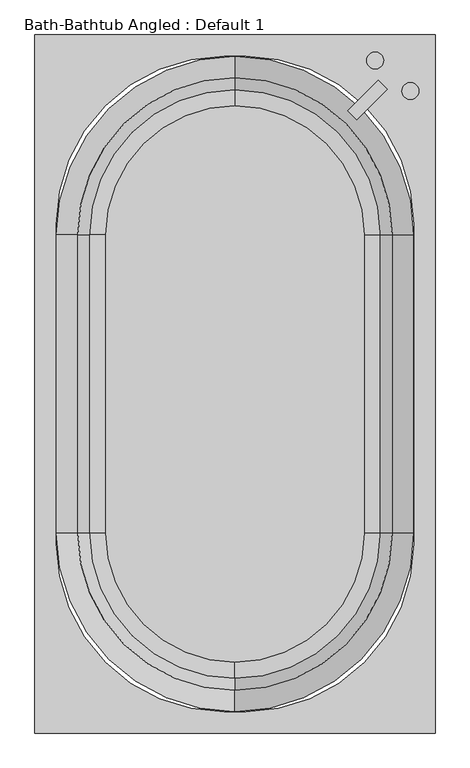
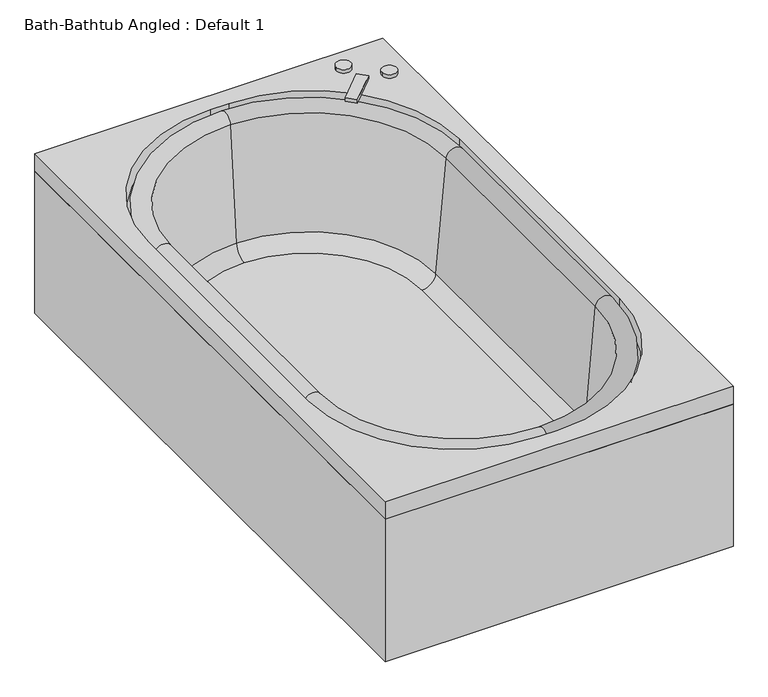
"""IFC4 building model written with IfcOpenShell, lengths in millimetres: flow terminal geometry, Bath-Bathtub Angled : Default 1."""

from ifc_helpers import new_model, si_unit, point, frame, frame_2d, origin, origin_with_axes, place, context, project, spatial, polyline, circle_curve, ellipse_curve, trimmed, segment, composite_curve, outline, extrude, source, transform, mapped, element, save
from ifc_brep_helpers import plane_surface, cylinder_surface, revolved_surface, advanced_brep


def bath_bathtub_angled_default_1_4eb5927c(model_context):
    return source(origin(), model_context, "Body", "SolidModel", [
        advanced_brep(
        [(0.0, 647.7, 0.0), (-295.275, 352.425, 0.0), (-305.5574236, 352.425, 0.0), (0.0, 657.9824236, 0.0), (305.5574236, 352.425, 0.0), (295.275, 352.425, 0.0), (295.275, 352.425, 66.3), (0.0, 647.7, 66.3), (305.5574236, 352.425, 65.9536107), (305.5574236, 352.425, 66.3), (0.0, 657.9824236, 65.9536107), (-305.5574236, 352.425, 65.9536107), (-295.275, 352.425, 66.3), (-305.5574236, 352.425, 66.3), (-305.5574236, -352.425, 81.38125), (0.0, -657.9824236, 81.38125), (305.5574236, -352.425, 81.38125), (305.5574236, 352.425, 81.38125), (0.0, 657.9824236, 81.38125), (-305.5574236, 352.425, 81.38125), (305.5574236, -352.425, 66.3), (0.0, -657.9824236, 66.3), (-305.5574236, -352.425, 66.3), (-305.5574236, -352.425, 80.8774627), (0.0, -657.9824236, 80.8774627), (305.5574236, -352.425, 80.8774627), (305.5574236, 352.425, 80.8774627), (0.0, 657.9824236, 80.8774627), (-305.5574236, 352.425, 80.8774627), (0.0, -736.6, 409.2), (384.175, -352.425, 409.2), (396.875, -352.425, 409.2), (0.0, -749.3, 409.2), (0.0, -710.8045038, 114.3561295), (358.3795038, -352.425, 114.3561295), (0.0, -657.9824236, 65.9536107), (305.5574236, -352.425, 65.9536107), (0.0, -695.9374416, 115.6568289), (343.5124416, -352.425, 115.6568289), (0.0, -724.1561556, 438.1982063), (371.7311556, -352.425, 438.1982063), (-396.875, -352.425, 409.2), (-384.175, -352.425, 409.2), (-358.3795038, -352.425, 114.3561295), (-305.5574236, -352.425, 65.9536107), (-343.5124416, -352.425, 115.6568289), (-371.7311556, -352.425, 438.1982063), (-396.875, 352.425, 409.2), (-384.175, 352.425, 409.2), (-358.3795038, 352.425, 114.3561295), (-343.5124416, 352.425, 115.6568289), (-371.7311556, 352.425, 438.1982063), (0.0, 749.3, 409.2), (0.0, 736.6, 409.2), (0.0, 710.8045038, 114.3561295), (0.0, 695.9374416, 115.6568289), (0.0, 724.1561556, 438.1982063), (396.875, 352.425, 409.2), (384.175, 352.425, 409.2), (358.3795038, 352.425, 114.3561295), (343.5124416, 352.425, 115.6568289), (371.7311556, 352.425, 438.1982063)],
        [
            (0, 1, circle_curve(frame((0.0, 352.425, 0.0), z_axis=(0.0, 0.0, 1.0), x_axis=(1.0, 0.0, 0.0)), 295.275)),
            (1, 2),
            (2, 3, circle_curve(frame((0.0, 352.425, 0.0), z_axis=(0.0, 0.0, -1.0), x_axis=(1.0, 0.0, 0.0)), 305.5574236)),
            (3, 4, circle_curve(frame((0.0, 352.425, 0.0), z_axis=(0.0, 0.0, -1.0), x_axis=(1.0, 0.0, 0.0)), 305.5574236)),
            (4, 5),
            (5, 0, circle_curve(frame((0.0, 352.425, 0.0), z_axis=(0.0, 0.0, 1.0), x_axis=(1.0, 0.0, 0.0)), 295.275)),
            (5, 6),
            (6, 7, circle_curve(frame((0.0, 352.425, 66.3), z_axis=(0.0, 0.0, 1.0), x_axis=(1.0, 0.0, 0.0)), 295.275)),
            (7, 0),
            (4, 8),
            (8, 9),
            (9, 6),
            (3, 10),
            (10, 8, circle_curve(frame((0.0, 352.425, 65.9536107), z_axis=(0.0, 0.0, -1.0), x_axis=(1.0, 0.0, 0.0)), 305.5574236)),
            (2, 11),
            (11, 10, circle_curve(frame((0.0, 352.425, 65.9536107), z_axis=(0.0, 0.0, -1.0), x_axis=(1.0, 0.0, 0.0)), 305.5574236)),
            (1, 12),
            (12, 13),
            (13, 11),
            (7, 12, circle_curve(frame((0.0, 352.425, 66.3), z_axis=(0.0, 0.0, 1.0), x_axis=(1.0, 0.0, 0.0)), 295.275)),
            (14, 15, circle_curve(frame((0.0, -352.425, 81.38125), z_axis=(0.0, 0.0, 1.0), x_axis=(0.0, -1.0, 0.0)), 305.5574236)),
            (15, 16, circle_curve(frame((0.0, -352.425, 81.38125), z_axis=(0.0, 0.0, 1.0), x_axis=(0.0, -1.0, 0.0)), 305.5574236)),
            (16, 17),
            (17, 18, circle_curve(frame((0.0, 352.425, 81.38125), z_axis=(0.0, 0.0, 1.0), x_axis=(0.0, -1.0, 0.0)), 305.5574236)),
            (18, 19, circle_curve(frame((0.0, 352.425, 81.38125), z_axis=(0.0, 0.0, 1.0), x_axis=(0.0, -1.0, 0.0)), 305.5574236)),
            (19, 14),
            (9, 20),
            (20, 21, circle_curve(frame((0.0, -352.425, 66.3), z_axis=(0.0, 0.0, -1.0), x_axis=(1.0, 0.0, 0.0)), 305.5574236)),
            (21, 22, circle_curve(frame((0.0, -352.425, 66.3), z_axis=(0.0, 0.0, -1.0), x_axis=(0.0, -1.0, 0.0)), 305.5574236)),
            (22, 13),
            (14, 23),
            (23, 24, circle_curve(frame((0.0, -352.425, 80.8774627), z_axis=(0.0, 0.0, 1.0), x_axis=(0.0, -1.0, 0.0)), 305.5574236)),
            (24, 15),
            (24, 25, circle_curve(frame((0.0, -352.425, 80.8774627), z_axis=(0.0, 0.0, 1.0), x_axis=(0.0, -1.0, 0.0)), 305.5574236)),
            (25, 16),
            (25, 26),
            (26, 17),
            (26, 27, circle_curve(frame((0.0, 352.425, 80.8774627), z_axis=(0.0, 0.0, 1.0), x_axis=(0.0, -1.0, 0.0)), 305.5574236)),
            (27, 18),
            (27, 28, circle_curve(frame((0.0, 352.425, 80.8774627), z_axis=(0.0, 0.0, 1.0), x_axis=(0.0, -1.0, 0.0)), 305.5574236)),
            (28, 19),
            (28, 23),
            (29, 30, circle_curve(frame((0.0, -352.425, 409.2), z_axis=(0.0, 0.0, 1.0), x_axis=(1.0, 0.0, 0.0)), 384.175)),
            (30, 31),
            (31, 32, circle_curve(frame((0.0, -352.425, 409.2), z_axis=(0.0, 0.0, -1.0), x_axis=(1.0, 0.0, 0.0)), 396.875)),
            (32, 29),
            (29, 33),
            (33, 34, circle_curve(frame((0.0, -352.425, 114.3561295), z_axis=(0.0, 0.0, 1.0), x_axis=(1.0, 0.0, 0.0)), 358.3795038)),
            (34, 30),
            (33, 35, circle_curve(frame((0.0, -657.9824236, 118.9774627), z_axis=(1.0, 0.0, 0.0), x_axis=(0.0, -1.0, 0.0)), 53.023852)),
            (35, 36, circle_curve(frame((0.0, -352.425, 65.9536107), z_axis=(0.0, 0.0, 1.0), x_axis=(1.0, 0.0, 0.0)), 305.5574236)),
            (36, 34, circle_curve(frame((305.5574236, -352.425, 118.9774627), z_axis=(0.0, -1.0, 0.0), x_axis=(1.0, 0.0, 0.0)), 53.023852)),
            (35, 21),
            (20, 36),
            (37, 38, circle_curve(frame((0.0, -352.425, 115.6568289), z_axis=(0.0, 0.0, 1.0), x_axis=(1.0, 0.0, 0.0)), 343.5124416)),
            (38, 25, circle_curve(frame((305.5574236, -352.425, 118.9774627), z_axis=(0.0, 1.0, 0.0), x_axis=(1.0, 0.0, 0.0)), 38.1)),
            (24, 37, circle_curve(frame((0.0, -657.9824236, 118.9774627), z_axis=(-1.0, 0.0, 0.0), x_axis=(0.0, -1.0, 0.0)), 38.1)),
            (37, 39),
            (39, 40, circle_curve(frame((0.0, -352.425, 438.1982063), z_axis=(0.0, 0.0, 1.0), x_axis=(1.0, 0.0, 0.0)), 371.7311556)),
            (40, 38),
            (31, 40, circle_curve(frame((396.875, -352.425, 434.6), z_axis=(0.0, -1.0, 0.0), x_axis=(1.0, 0.0, 0.0)), 25.4)),
            (39, 32, circle_curve(frame((0.0, -749.3, 434.6), z_axis=(1.0, 0.0, 0.0), x_axis=(0.0, -1.0, 0.0)), 25.4)),
            (32, 41, circle_curve(frame((0.0, -352.425, 409.2), z_axis=(0.0, 0.0, -1.0), x_axis=(0.0, -1.0, 0.0)), 396.875)),
            (41, 42),
            (42, 29, circle_curve(frame((0.0, -352.425, 409.2), z_axis=(0.0, 0.0, 1.0), x_axis=(0.0, -1.0, 0.0)), 384.175)),
            (42, 43),
            (43, 33, circle_curve(frame((0.0, -352.425, 114.3561295), z_axis=(0.0, 0.0, 1.0), x_axis=(0.0, -1.0, 0.0)), 358.3795038)),
            (43, 44, circle_curve(frame((-305.5574236, -352.425, 118.9774627), z_axis=(0.0, -1.0, 0.0), x_axis=(-1.0, 0.0, 0.0)), 53.023852)),
            (44, 35, circle_curve(frame((0.0, -352.425, 65.9536107), z_axis=(0.0, 0.0, 1.0), x_axis=(0.0, -1.0, 0.0)), 305.5574236)),
            (44, 22),
            (23, 45, circle_curve(frame((-305.5574236, -352.425, 118.9774627), z_axis=(0.0, 1.0, 0.0), x_axis=(-1.0, 0.0, 0.0)), 38.1)),
            (45, 37, circle_curve(frame((0.0, -352.425, 115.6568289), z_axis=(0.0, 0.0, 1.0), x_axis=(0.0, -1.0, 0.0)), 343.5124416)),
            (45, 46),
            (46, 39, circle_curve(frame((0.0, -352.425, 438.1982063), z_axis=(0.0, 0.0, 1.0), x_axis=(0.0, -1.0, 0.0)), 371.7311556)),
            (46, 41, circle_curve(frame((-396.875, -352.425, 434.6), z_axis=(0.0, -1.0, 0.0), x_axis=(-1.0, 0.0, 0.0)), 25.4)),
            (41, 47),
            (47, 48),
            (48, 42),
            (48, 49),
            (49, 43),
            (49, 11, circle_curve(frame((-305.5574236, 352.425, 118.9774627), z_axis=(0.0, -1.0, 0.0), x_axis=(-1.0, 0.0, 0.0)), 53.023852)),
            (11, 44),
            (28, 50, circle_curve(frame((-305.5574236, 352.425, 118.9774627), z_axis=(0.0, 1.0, 0.0), x_axis=(-1.0, 0.0, 0.0)), 38.1)),
            (50, 45),
            (50, 51),
            (51, 46),
            (51, 47, circle_curve(frame((-396.875, 352.425, 434.6), z_axis=(0.0, -1.0, 0.0), x_axis=(-1.0, 0.0, 0.0)), 25.4)),
            (47, 52, circle_curve(frame((0.0, 352.425, 409.2), z_axis=(0.0, 0.0, -1.0), x_axis=(-1.0, 0.0, 0.0)), 396.875)),
            (52, 53),
            (53, 48, circle_curve(frame((0.0, 352.425, 409.2), z_axis=(0.0, 0.0, 1.0), x_axis=(-1.0, 0.0, 0.0)), 384.175)),
            (53, 54),
            (54, 49, circle_curve(frame((0.0, 352.425, 114.3561295), z_axis=(0.0, 0.0, 1.0), x_axis=(-1.0, 0.0, 0.0)), 358.3795038)),
            (54, 10, circle_curve(frame((0.0, 657.9824236, 118.9774627), z_axis=(-1.0, 0.0, 0.0), x_axis=(0.0, 1.0, 0.0)), 53.023852)),
            (27, 55, circle_curve(frame((0.0, 657.9824236, 118.9774627), z_axis=(1.0, 0.0, 0.0), x_axis=(0.0, 1.0, 0.0)), 38.1)),
            (55, 50, circle_curve(frame((0.0, 352.425, 115.6568289), z_axis=(0.0, 0.0, 1.0), x_axis=(-1.0, 0.0, 0.0)), 343.5124416)),
            (55, 56),
            (56, 51, circle_curve(frame((0.0, 352.425, 438.1982063), z_axis=(0.0, 0.0, 1.0), x_axis=(-1.0, 0.0, 0.0)), 371.7311556)),
            (56, 52, circle_curve(frame((0.0, 749.3, 434.6), z_axis=(-1.0, 0.0, 0.0), x_axis=(0.0, 1.0, 0.0)), 25.4)),
            (52, 57, circle_curve(frame((0.0, 352.425, 409.2), z_axis=(0.0, 0.0, -1.0), x_axis=(0.0, 1.0, 0.0)), 396.875)),
            (57, 58),
            (58, 53, circle_curve(frame((0.0, 352.425, 409.2), z_axis=(0.0, 0.0, 1.0), x_axis=(0.0, 1.0, 0.0)), 384.175)),
            (58, 59),
            (59, 54, circle_curve(frame((0.0, 352.425, 114.3561295), z_axis=(0.0, 0.0, 1.0), x_axis=(0.0, 1.0, 0.0)), 358.3795038)),
            (59, 8, circle_curve(frame((305.5574236, 352.425, 118.9774627), z_axis=(0.0, 1.0, 0.0), x_axis=(1.0, 0.0, 0.0)), 53.023852)),
            (26, 60, circle_curve(frame((305.5574236, 352.425, 118.9774627), z_axis=(0.0, -1.0, 0.0), x_axis=(1.0, 0.0, 0.0)), 38.1)),
            (60, 55, circle_curve(frame((0.0, 352.425, 115.6568289), z_axis=(0.0, 0.0, 1.0), x_axis=(0.0, 1.0, 0.0)), 343.5124416)),
            (60, 61),
            (61, 56, circle_curve(frame((0.0, 352.425, 438.1982063), z_axis=(0.0, 0.0, 1.0), x_axis=(0.0, 1.0, 0.0)), 371.7311556)),
            (61, 57, circle_curve(frame((396.875, 352.425, 434.6), z_axis=(0.0, 1.0, 0.0), x_axis=(1.0, 0.0, 0.0)), 25.4)),
            (30, 58),
            (57, 31),
            (34, 59),
            (36, 8),
            (38, 60),
            (40, 61),
        ],
        [
            plane_surface(frame((295.275, 352.425, 0.0), z_axis=(0.0, 0.0, -1.0), x_axis=(0.0, 1.0, 0.0))),
            revolved_surface(polyline([(295.275, 352.425, 0.0), (295.275, 352.425, 66.3)]), (0.0, 352.425, 0.0), (0.0, 0.0, -1.0)),
            plane_surface(frame((295.275, 352.425, 66.3), z_axis=(0.0, -1.0, 0.0), x_axis=(0.0, 0.0, -1.0))),
            cylinder_surface(frame((0.0, 352.425, 0.0), z_axis=(0.0, 0.0, 1.0), x_axis=(1.0, 0.0, 0.0)), 305.5574236),
            plane_surface(frame((-305.5574236, 352.425, 66.3), z_axis=(0.0, -1.0, 0.0), x_axis=(0.0, 0.0, -1.0))),
            plane_surface(frame((0.0, -657.9824236, 81.38125), z_axis=(0.0, 0.0, 1.0), x_axis=(1.0, 0.0, 0.0))),
            plane_surface(frame((0.0, -657.9824236, 66.3), z_axis=(0.0, 0.0, -1.0), x_axis=(-1.0, 0.0, 0.0))),
            cylinder_surface(frame((0.0, -352.425, 66.3), z_axis=(0.0, 0.0, 1.0), x_axis=(0.0, -1.0, 0.0)), 305.5574236),
            plane_surface(frame((305.5574236, -352.425, 81.38125), z_axis=(1.0, 0.0, 0.0), x_axis=(0.0, 0.0, -1.0))),
            cylinder_surface(frame((0.0, 352.425, 66.3), z_axis=(0.0, 0.0, 1.0), x_axis=(0.0, -1.0, 0.0)), 305.5574236),
            plane_surface(frame((-305.5574236, 352.425, 81.38125), z_axis=(-1.0, 0.0, 0.0), x_axis=(0.0, 0.0, -1.0))),
            plane_surface(frame((0.0, -352.425, 409.2), z_axis=(0.0, 0.0, -1.0), x_axis=(1.0, 0.0, 0.0))),
            revolved_surface(polyline([(384.175, -352.425, 409.2), (358.3795038, -352.425, 114.3561295)]), (0.0, -352.425, 434.6), (0.0, 0.0, -1.0)),
            revolved_surface(trimmed(ellipse_curve(frame((305.5574236, -352.425, 118.9774627), z_axis=(0.0, 1.0, 0.0), x_axis=(1.0, 0.0, 0.0)), 53.023852, 53.023852), [point((358.3795038, -352.425, 114.3561295))], [point((305.5574236, -352.425, 65.9536107))], True, "CARTESIAN"), (0.0, -352.425, 434.6), (0.0, 0.0, -1.0)),
            revolved_surface(polyline([(305.5574236, -352.425, 65.95361070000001), (305.5574236, -352.425, 66.30000000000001)]), (0.0, -352.425, 434.6), (0.0, 0.0, -1.0)),
            revolved_surface(trimmed(ellipse_curve(frame((305.5574236, -352.425, 118.9774627), z_axis=(0.0, -1.0, 0.0), x_axis=(1.0, 0.0, 0.0)), 38.1, 38.1), [point((305.5574236, -352.425, 80.8774627))], [point((343.5124416, -352.425, 115.6568289))], True, "CARTESIAN"), (0.0, -352.425, 434.6), (0.0, 0.0, -1.0)),
            revolved_surface(polyline([(343.5124416, -352.425, 115.6568289), (371.7311556, -352.425, 438.1982063)]), (0.0, -352.425, 434.6), (0.0, 0.0, -1.0)),
            revolved_surface(trimmed(ellipse_curve(frame((396.875, -352.425, 434.6), z_axis=(0.0, 1.0, 0.0), x_axis=(1.0, 0.0, 0.0)), 25.4, 25.4), [point((371.7311556, -352.425, 438.1982063))], [point((396.875, -352.425, 409.2))], True, "CARTESIAN"), (0.0, -352.425, 434.6), (0.0, 0.0, -1.0)),
            plane_surface(frame((0.0, -352.425, 409.2), z_axis=(0.0, 0.0, -1.0), x_axis=(0.0, -1.0, 0.0))),
            revolved_surface(polyline([(0.0, -736.6, 409.2), (0.0, -710.8045038, 114.3561295)]), (0.0, -352.425, 434.6), (0.0, 0.0, -1.0)),
            revolved_surface(trimmed(ellipse_curve(frame((0.0, -657.9824236, 118.9774627), z_axis=(1.0, 0.0, 0.0), x_axis=(0.0, -1.0, 0.0)), 53.023852, 53.023852), [point((0.0, -710.8045038, 114.3561295))], [point((0.0, -657.9824236, 65.9536107))], True, "CARTESIAN"), (0.0, -352.425, 434.6), (0.0, 0.0, -1.0)),
            revolved_surface(polyline([(0.0, -657.9824236, 65.95361070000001), (0.0, -657.9824236, 66.30000000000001)]), (0.0, -352.425, 434.6), (0.0, 0.0, -1.0)),
            revolved_surface(trimmed(ellipse_curve(frame((0.0, -657.9824236, 118.9774627), z_axis=(-1.0, 0.0, 0.0), x_axis=(0.0, -1.0, 0.0)), 38.1, 38.1), [point((0.0, -657.9824236, 80.8774627))], [point((0.0, -695.9374416, 115.6568289))], True, "CARTESIAN"), (0.0, -352.425, 434.6), (0.0, 0.0, -1.0)),
            revolved_surface(polyline([(0.0, -695.9374416, 115.6568289), (0.0, -724.1561556, 438.1982063)]), (0.0, -352.425, 434.6), (0.0, 0.0, -1.0)),
            revolved_surface(trimmed(ellipse_curve(frame((0.0, -749.3, 434.6), z_axis=(1.0, 0.0, 0.0), x_axis=(0.0, -1.0, 0.0)), 25.4, 25.4), [point((0.0, -724.1561556, 438.1982063))], [point((0.0, -749.3, 409.2))], True, "CARTESIAN"), (0.0, -352.425, 434.6), (0.0, 0.0, -1.0)),
            plane_surface(frame((-396.875, -352.425, 409.2), z_axis=(0.0, 0.0, -1.0), x_axis=(0.0, 1.0, 0.0))),
            plane_surface(frame((-384.175, -352.425, 409.2), z_axis=(-0.9961946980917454, 0.0, -0.08715574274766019), x_axis=(0.0, 1.0, 0.0))),
            cylinder_surface(frame((-305.5574236, -352.425, 118.9774627), z_axis=(0.0, -1.0, 0.0), x_axis=(-1.0, 0.0, 0.0)), 53.023852),
            plane_surface(frame((-305.5574236, -352.425, 65.9536107), z_axis=(1.0, 0.0, 0.0), x_axis=(0.0, 1.0, 0.0))),
            revolved_surface(polyline([(-343.6574236, 352.425, 118.9774627), (-343.6574236, -352.425, 118.9774627)]), (-305.5574236, -352.425, 118.9774627), (0.0, 1.0, 0.0)),
            plane_surface(frame((-343.5124416, -352.425, 115.6568289), z_axis=(0.9961946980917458, 0.0, 0.08715574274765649), x_axis=(0.0, 1.0, 0.0))),
            cylinder_surface(frame((-396.875, -352.425, 434.6), z_axis=(0.0, -1.0, 0.0), x_axis=(-1.0, 0.0, 0.0)), 25.4),
            plane_surface(frame((0.0, 352.425, 409.2), z_axis=(0.0, 0.0, -1.0), x_axis=(-1.0, 0.0, 0.0))),
            revolved_surface(polyline([(-384.175, 352.425, 409.2), (-358.3795038, 352.425, 114.3561295)]), (0.0, 352.425, 434.6), (0.0, 0.0, -1.0)),
            revolved_surface(trimmed(ellipse_curve(frame((-305.5574236, 352.425, 118.9774627), z_axis=(0.0, -1.0, 0.0), x_axis=(-1.0, 0.0, 0.0)), 53.023852, 53.023852), [point((-358.3795038, 352.425, 114.3561295))], [point((-305.5574236, 352.425, 65.9536107))], True, "CARTESIAN"), (0.0, 352.425, 434.6), (0.0, 0.0, -1.0)),
            revolved_surface(trimmed(ellipse_curve(frame((-305.5574236, 352.425, 118.9774627), z_axis=(0.0, 1.0, 0.0), x_axis=(-1.0, 0.0, 0.0)), 38.1, 38.1), [point((-305.5574236, 352.425, 80.8774627))], [point((-343.5124416, 352.425, 115.6568289))], True, "CARTESIAN"), (0.0, 352.425, 434.6), (0.0, 0.0, -1.0)),
            revolved_surface(polyline([(-343.5124416, 352.425, 115.6568289), (-371.7311556, 352.425, 438.1982063)]), (0.0, 352.425, 434.6), (0.0, 0.0, -1.0)),
            revolved_surface(trimmed(ellipse_curve(frame((-396.875, 352.425, 434.6), z_axis=(0.0, -1.0, 0.0), x_axis=(-1.0, 0.0, 0.0)), 25.4, 25.4), [point((-371.7311556, 352.425, 438.1982063))], [point((-396.875, 352.425, 409.2))], True, "CARTESIAN"), (0.0, 352.425, 434.6), (0.0, 0.0, -1.0)),
            plane_surface(frame((0.0, 352.425, 409.2), z_axis=(0.0, 0.0, -1.0), x_axis=(0.0, 1.0, 0.0))),
            revolved_surface(polyline([(0.0, 736.6, 409.2), (0.0, 710.8045038, 114.3561295)]), (0.0, 352.425, 434.6), (0.0, 0.0, -1.0)),
            revolved_surface(trimmed(ellipse_curve(frame((0.0, 657.9824236, 118.9774627), z_axis=(-1.0, 0.0, 0.0), x_axis=(0.0, 1.0, 0.0)), 53.023852, 53.023852), [point((0.0, 710.8045038, 114.3561295))], [point((0.0, 657.9824236, 65.9536107))], True, "CARTESIAN"), (0.0, 352.425, 434.6), (0.0, 0.0, -1.0)),
            revolved_surface(trimmed(ellipse_curve(frame((0.0, 657.9824236, 118.9774627), z_axis=(1.0, 0.0, 0.0), x_axis=(0.0, 1.0, 0.0)), 38.1, 38.1), [point((0.0, 657.9824236, 80.8774627))], [point((0.0, 695.9374416, 115.6568289))], True, "CARTESIAN"), (0.0, 352.425, 434.6), (0.0, 0.0, -1.0)),
            revolved_surface(polyline([(0.0, 695.9374416, 115.6568289), (0.0, 724.1561556, 438.1982063)]), (0.0, 352.425, 434.6), (0.0, 0.0, -1.0)),
            revolved_surface(trimmed(ellipse_curve(frame((0.0, 749.3, 434.6), z_axis=(-1.0, 0.0, 0.0), x_axis=(0.0, 1.0, 0.0)), 25.4, 25.4), [point((0.0, 724.1561556, 438.1982063))], [point((0.0, 749.3, 409.2))], True, "CARTESIAN"), (0.0, 352.425, 434.6), (0.0, 0.0, -1.0)),
            plane_surface(frame((396.875, 352.425, 409.2), z_axis=(0.0, 0.0, -1.0), x_axis=(0.0, -1.0, 0.0))),
            plane_surface(frame((384.175, 352.425, 409.2), z_axis=(0.9961946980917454, 0.0, -0.08715574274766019), x_axis=(0.0, -1.0, 0.0))),
            cylinder_surface(frame((305.5574236, 352.425, 118.9774627), z_axis=(0.0, 1.0, 0.0), x_axis=(1.0, 0.0, 0.0)), 53.023852),
            plane_surface(frame((305.5574236, 352.425, 65.9536107), z_axis=(-1.0, 0.0, 0.0), x_axis=(0.0, -1.0, 0.0))),
            revolved_surface(polyline([(343.6574236, -352.425, 118.9774627), (343.6574236, 352.425, 118.9774627)]), (305.5574236, 352.425, 118.9774627), (0.0, -1.0, 0.0)),
            plane_surface(frame((343.5124416, 352.425, 115.6568289), z_axis=(-0.9961946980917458, 0.0, 0.08715574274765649), x_axis=(0.0, -1.0, 0.0))),
            cylinder_surface(frame((396.875, 352.425, 434.6), z_axis=(0.0, 1.0, 0.0), x_axis=(1.0, 0.0, 0.0)), 25.4),
        ],
        [
            (0, [[1, 2, 3, 4, 5, 6]]),
            (1, [[-6, 7, 8, 9]]),
            (2, [[-5, 10, 11, 12, -7]]),
            (3, [[-4, 13, 14, -10]]),
            (3, [[-3, 15, 16, -13]]),
            (4, [[-2, 17, 18, 19, -15]]),
            (1, [[-1, -9, 20, -17]]),
            (5, [[21, 22, 23, 24, 25, 26]]),
            (6, [[-8, -12, 27, 28, 29, 30, -18, -20]]),
            (7, [[-21, 31, 32, 33]]),
            (7, [[-22, -33, 34, 35]]),
            (8, [[-23, -35, 36, 37]]),
            (9, [[-24, -37, 38, 39]]),
            (9, [[-25, -39, 40, 41]]),
            (10, [[-26, -41, 42, -31]]),
            (11, [[43, 44, 45, 46]]),
            (12, [[-43, 47, 48, 49]]),
            (13, [[-48, 50, 51, 52]]),
            (14, [[-51, 53, -28, 54]]),
            (15, [[55, 56, -34, 57]]),
            (16, [[-55, 58, 59, 60]]),
            (17, [[-45, 61, -59, 62]]),
            (18, [[-46, 63, 64, 65]]),
            (19, [[-47, -65, 66, 67]]),
            (20, [[-50, -67, 68, 69]]),
            (21, [[-69, 70, -29, -53]]),
            (22, [[-57, -32, 71, 72]]),
            (23, [[-58, -72, 73, 74]]),
            (24, [[-62, -74, 75, -63]]),
            (25, [[-64, 76, 77, 78]]),
            (26, [[-66, -78, 79, 80]]),
            (27, [[-68, -80, 81, 82]]),
            (28, [[-82, -19, -30, -70]]),
            (29, [[-71, -42, 83, 84]]),
            (30, [[-73, -84, 85, 86]]),
            (31, [[-75, -86, 87, -76]]),
            (32, [[-77, 88, 89, 90]]),
            (33, [[-79, -90, 91, 92]]),
            (34, [[-81, -92, 93, -16]]),
            (35, [[-83, -40, 94, 95]]),
            (36, [[-85, -95, 96, 97]]),
            (37, [[-87, -97, 98, -88]]),
            (38, [[-89, 99, 100, 101]]),
            (39, [[-91, -101, 102, 103]]),
            (40, [[-93, -103, 104, -14]]),
            (41, [[-94, -38, 105, 106]]),
            (42, [[-96, -106, 107, 108]]),
            (43, [[-98, -108, 109, -99]]),
            (44, [[-44, 110, -100, 111]]),
            (45, [[-49, 112, -102, -110]]),
            (46, [[-52, 113, -104, -112]]),
            (47, [[-113, -54, -27, -11]]),
            (48, [[-56, 114, -105, -36]]),
            (49, [[-60, 115, -107, -114]]),
            (50, [[-61, -111, -109, -115]]),
        ],
    ),
        extrude(outline(composite_curve([segment(trimmed(circle_curve(frame_2d((0.0, -352.425)), 305.5574236), [point((0.0, -657.9824236))], [point((-305.5574236, -352.425))], False, "CARTESIAN"), True, "CONTINUOUS"), segment(polyline([(-305.5574236, -352.425), (-295.275, -352.425)]), True, "CONTINUOUS"), segment(trimmed(circle_curve(frame_2d((0.0, -352.425)), 295.275), [point((-295.275, -352.425))], [point((0.0, -647.7))], True, "CARTESIAN"), True, "CONTINUOUS"), segment(trimmed(circle_curve(frame_2d((0.0, -352.425)), 295.275), [point((0.0, -647.7))], [point((295.275, -352.425))], True, "CARTESIAN"), True, "CONTINUOUS"), segment(polyline([(295.275, -352.425), (305.5574236, -352.425)]), True, "CONTINUOUS"), segment(trimmed(circle_curve(frame_2d((0.0, -352.425)), 305.5574236), [point((305.5574236, -352.425))], [point((0.0, -657.9824236))], False, "CARTESIAN"), True, "CONTINUOUS")], self_intersect=False)), origin_with_axes(), (0.0, 0.0, 1.0), 66.3),
        extrude(outline(polyline([(-473.075, 825.5), (473.075, 825.5), (473.075, -825.5), (-473.075, -825.5), (-473.075, 825.5)]), holes=[polyline([(-466.725, -819.15), (466.725, -819.15), (466.725, 819.15), (-466.725, 819.15), (-466.725, -819.15)])]), origin_with_axes(), (0.0, 0.0, 1.0), 409.2),
        extrude(outline(composite_curve([segment(trimmed(circle_curve(frame_2d((331.6037885, 764.9953065)), 20.0), [point((311.6037885, 764.9953065))], [point((351.6037885, 764.9953065))], False, "CARTESIAN"), True, "CONTINUOUS"), segment(trimmed(circle_curve(frame_2d((331.6037885, 764.9953065)), 20.0), [point((351.6037885, 764.9953065))], [point((311.6037885, 764.9953065))], False, "CARTESIAN"), True, "CONTINUOUS")], self_intersect=False)), frame((0.0, 0.0, 460.0), z_axis=(0.0, 0.0, 1.0), x_axis=(1.0, 0.0, 0.0)), (0.0, 0.0, 1.0), 10.0),
        extrude(outline(composite_curve([segment(trimmed(circle_curve(frame_2d((414.6218423, 692.8288133)), 20.0), [point((394.6218423, 692.8288133))], [point((434.6218423, 692.8288133))], False, "CARTESIAN"), True, "CONTINUOUS"), segment(trimmed(circle_curve(frame_2d((414.6218423, 692.8288133)), 20.0), [point((434.6218423, 692.8288133))], [point((394.6218423, 692.8288133))], False, "CARTESIAN"), True, "CONTINUOUS")], self_intersect=False)), frame((0.0, 0.0, 460.0), z_axis=(0.0, 0.0, 1.0), x_axis=(1.0, 0.0, 0.0)), (0.0, 0.0, 1.0), 10.0),
        extrude(outline(polyline([(339.4441101, 718.1130054), (360.6573136, 696.899802), (288.1711763, 624.4136647), (266.9579729, 645.6268682), (339.4441101, 718.1130054)])), frame((0.0, 0.0, 460.0), z_axis=(0.0, 0.0, 1.0), x_axis=(1.0, 0.0, 0.0)), (0.0, 0.0, 1.0), 10.0),
        extrude(outline(polyline([(473.075, 825.5), (473.075, -825.5), (-473.075, -825.5), (-473.075, 825.5), (473.075, 825.5)]), holes=[composite_curve([segment(polyline([(-422.275, 377.825), (-422.275, -377.825)]), True, "CONTINUOUS"), segment(trimmed(circle_curve(frame_2d((-25.4, -377.825)), 396.875), [point((-422.275, -377.825))], [point((-25.4, -774.7))], True, "CARTESIAN"), True, "CONTINUOUS"), segment(polyline([(-25.4, -774.7), (25.4, -774.7)]), True, "CONTINUOUS"), segment(trimmed(circle_curve(frame_2d((25.4, -377.825)), 396.875), [point((25.4, -774.7))], [point((422.275, -377.825))], True, "CARTESIAN"), True, "CONTINUOUS"), segment(polyline([(422.275, -377.825), (422.275, 377.825)]), True, "CONTINUOUS"), segment(trimmed(circle_curve(frame_2d((25.4, 377.825)), 396.875), [point((422.275, 377.825))], [point((25.4, 774.7))], True, "CARTESIAN"), True, "CONTINUOUS"), segment(polyline([(25.4, 774.7), (-25.4, 774.7)]), True, "CONTINUOUS"), segment(trimmed(circle_curve(frame_2d((-25.4, 377.825)), 396.875), [point((-25.4, 774.7))], [point((-422.275, 377.825))], True, "CARTESIAN"), True, "CONTINUOUS")], self_intersect=False)]), frame((0.0, 0.0, 409.2), z_axis=(0.0, 0.0, 1.0), x_axis=(1.0, 0.0, 0.0)), (0.0, 0.0, 1.0), 50.8),
    ])


if __name__ == "__main__":
    model = new_model("IFC4")
    model_context = context("Model", 3, world=origin())
    ifc_project = project(units=[si_unit("LENGTHUNIT", "METRE", prefix="MILLI")], contexts=[model_context])
    site = spatial("IfcSite", under=ifc_project)
    building = spatial("IfcBuilding", under=site)
    placement = place(None, origin())
    bath_bathtub_angled_default_1_shape = bath_bathtub_angled_default_1_4eb5927c(model_context)
    element("IfcFlowTerminal", 1, ObjectType="Bath-Bathtub Angled : Default 1", at=placement, inside=building, context=model_context, shape_type="MappedRepresentation", body=[
        mapped(bath_bathtub_angled_default_1_shape, transform((0.0, 0.0, 0.0), x_axis=(1.0, 0.0, 0.0), y_axis=(0.0, 1.0, 0.0), z_axis=(0.0, 0.0, 1.0))),
    ])
    save(model, "model.ifc")
